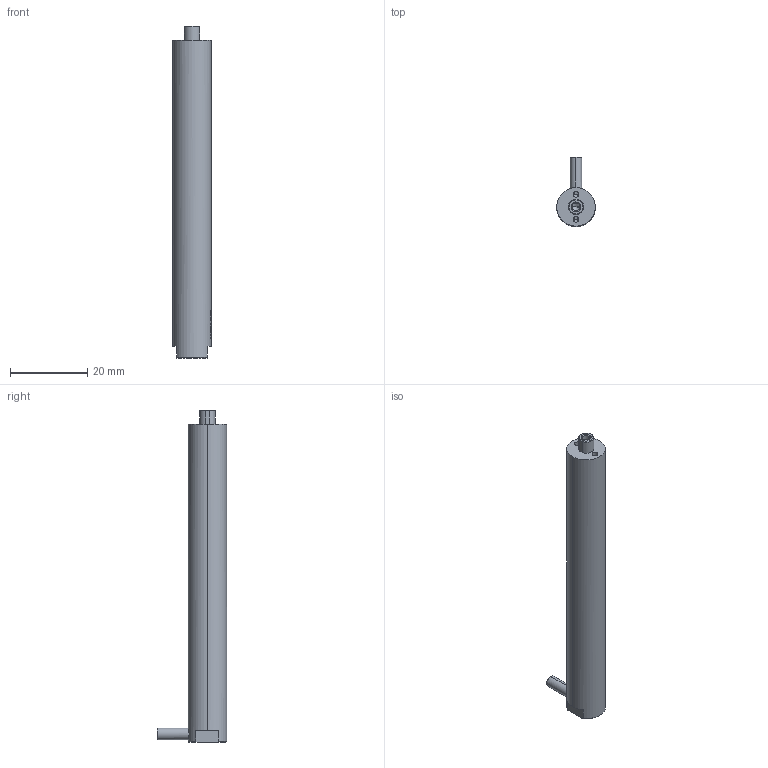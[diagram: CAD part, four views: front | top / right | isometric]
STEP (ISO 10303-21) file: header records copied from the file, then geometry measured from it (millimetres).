
FILE_DESCRIPTION (( 'STEP AP203' ), '1' );
FILE_NAME ('80VS10囀蹟恇.STEP', '2024-12-10T06:30:20', ( 'daohangxitong.com' ), ( 'daohangxitong.com' ), 'SwSTEP 2.0', 'SolidWorks 2016', '' );
FILE_SCHEMA (( 'CONFIG_CONTROL_DESIGN' ));
Length unit declared in the file: millimetre
Products named in the file (1): 80VS10囀蹟恇
Bounding box: 10 x 18 x 86.2 mm (x, y, z)
Volume: 6501.9 mm3; surface area: 2963.4 mm2
Topology: 1 solids, 1 shells, 911 faces, 2609 edges, 1731 vertices
Faces by surface type: bspline 799, cylinder 52, plane 44, cone 16
Entity records: 49763 total; most frequent: CARTESIAN_POINT 33078, ORIENTED_EDGE 5202, EDGE_CURVE 2601, B_SPLINE_CURVE_WITH_KNOTS 2447, VERTEX_POINT 1731, EDGE_LOOP 950, FACE_OUTER_BOUND 911, ADVANCED_FACE 911
